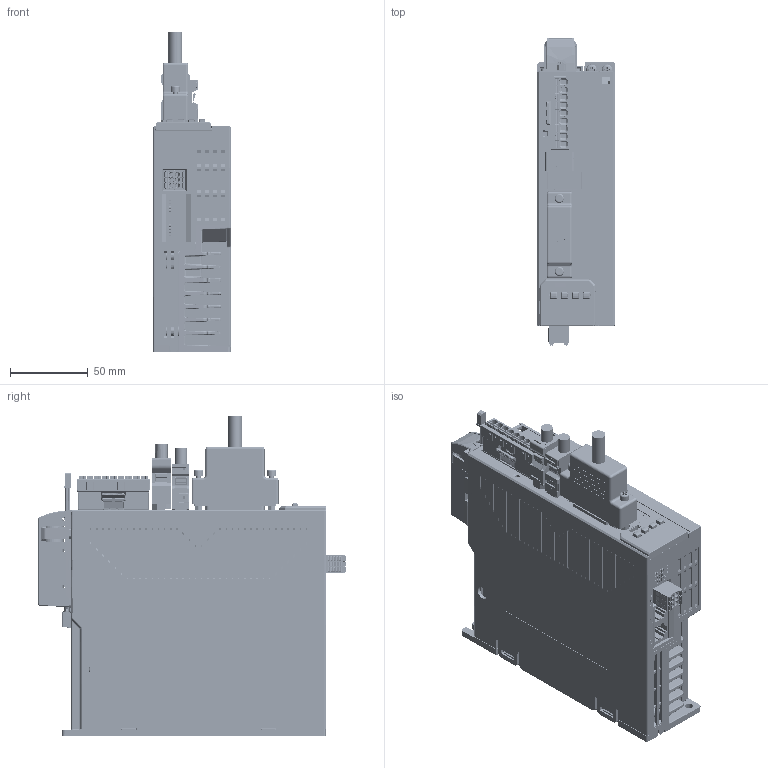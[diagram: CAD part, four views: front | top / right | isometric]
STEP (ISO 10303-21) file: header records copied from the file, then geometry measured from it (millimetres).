
FILE_DESCRIPTION((''),'2;1');
FILE_NAME('SD900-5R5A-PA_ASM','2025-09-28T',('v5489'),(''),'CREO PARAMETRIC BY PTC INC, 2018360','CREO PARAMETRIC BY PTC INC, 2018360','');
FILE_SCHEMA(('AP203_CONFIGURATION_CONTROLLED_3D_DESIGN_OF_MECHANICAL_PARTS_AND_ASSEMBLIES_MIM_LF { 1 0 10303 403 2 1 2 }'));
Products named in the file (16): SD900-5R5A-PA; SD900-DCH-P001_284; SD900-DCH-N001_98; 14505_50_1; 14505_50_2; 14505_50_3; 14505_50_ASM; S6-C4A_31; SD900-DCH-P_ASM_535_ASM; SD900-DCH-P_ASM_ASM; F9AP-5_0-09P-A; 5006540609; 1394SM_10P_; DB-44-1; 15EDGKNH-3_5-04P-14-00A_H_; SD900-5R5A-PA_ASM
Assembly tree (15 placements, depth 5):
  SD900-5R5A-PA_ASM
    SD900-5R5A-PA
    SD900-DCH-P_ASM_ASM
      SD900-DCH-P_ASM_535_ASM
        SD900-DCH-P001_284
        SD900-DCH-N001_98
        14505_50_ASM
          14505_50_1
          14505_50_2
          14505_50_3
        S6-C4A_31
    F9AP-5_0-09P-A
    5006540609
    1394SM_10P_
    DB-44-1
    15EDGKNH-3_5-04P-14-00A_H_
Bounding box: 50 x 198.5 x 206.45 mm (x, y, z)
Volume: 68399.2 mm3; surface area: 207638.1 mm2
Topology: 23 solids, 58 shells, 12400 faces, 33638 edges, 21524 vertices
Faces by surface type: plane 7544, cylinder 2947, bspline 527, cone 419, torus 399, extrusion 373, sphere 191
Entity records: 482882 total; most frequent: CARTESIAN_POINT 112717, ORIENTED_EDGE 66798, DIRECTION 58456, EDGE_CURVE 33455, VECTOR 23540, LINE 23167, VERTEX_POINT 21523, AXIS2_PLACEMENT_3D 17458
